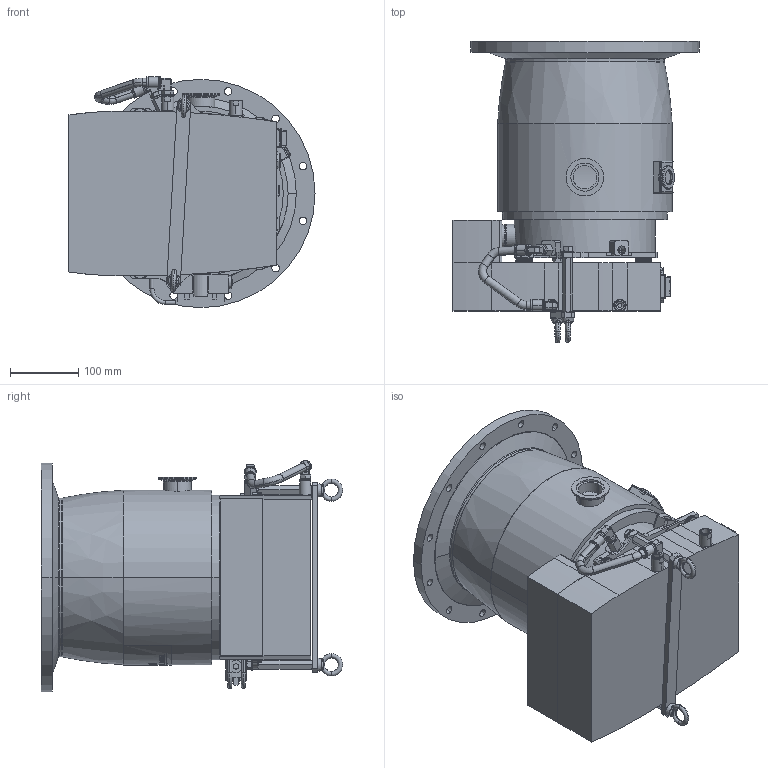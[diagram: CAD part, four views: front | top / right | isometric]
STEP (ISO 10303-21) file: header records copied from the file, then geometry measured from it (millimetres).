
FILE_DESCRIPTION((''),'2;1');
FILE_NAME('ATH1600M-PY66215B_ASM','2008-01-08T',('NVARENNES'),(''),'PRO/ENGINEER BY PARAMETRIC TECHNOLOGY CORPORATION, 2006510','PRO/ENGINEER BY PARAMETRIC TECHNOLOGY CORPORATION, 2006510','');
FILE_SCHEMA(('CONFIG_CONTROL_DESIGN'));
Length unit declared in the file: millimetre
Products named in the file (6): ENV-ATH1600M-P266215B; ENV-OBC-V4-COQUILLE; ENV-LOT-FIXATION-OBC-V4; RAC-M-F-BN-1-4-NPT-12-IO-LG; TUYAU-OBC-V4-ATHM; ATH1600M-PY66215B_ASM
Assembly tree (5 placements, depth 2):
  ATH1600M-PY66215B_ASM
    ENV-ATH1600M-P266215B
    ENV-OBC-V4-COQUILLE
    ENV-LOT-FIXATION-OBC-V4
    RAC-M-F-BN-1-4-NPT-12-IO-LG
    TUYAU-OBC-V4-ATHM
Bounding box: 361.1 x 442.02 x 339.35 mm (x, y, z)
Volume: 21689697.9 mm3; surface area: 962133.6 mm2
Topology: 20 solids, 151 shells, 4201 faces, 9680 edges, 6018 vertices
Faces by surface type: cylinder 1772, plane 1360, cone 721, bspline 188, torus 142, sphere 16, extrusion 2
Entity records: 131786 total; most frequent: CARTESIAN_POINT 35662, DIRECTION 19977, ORIENTED_EDGE 19324, EDGE_CURVE 9662, AXIS2_PLACEMENT_3D 8043, VERTEX_POINT 6018, EDGE_LOOP 4800, FACE_OUTER_BOUND 4201
